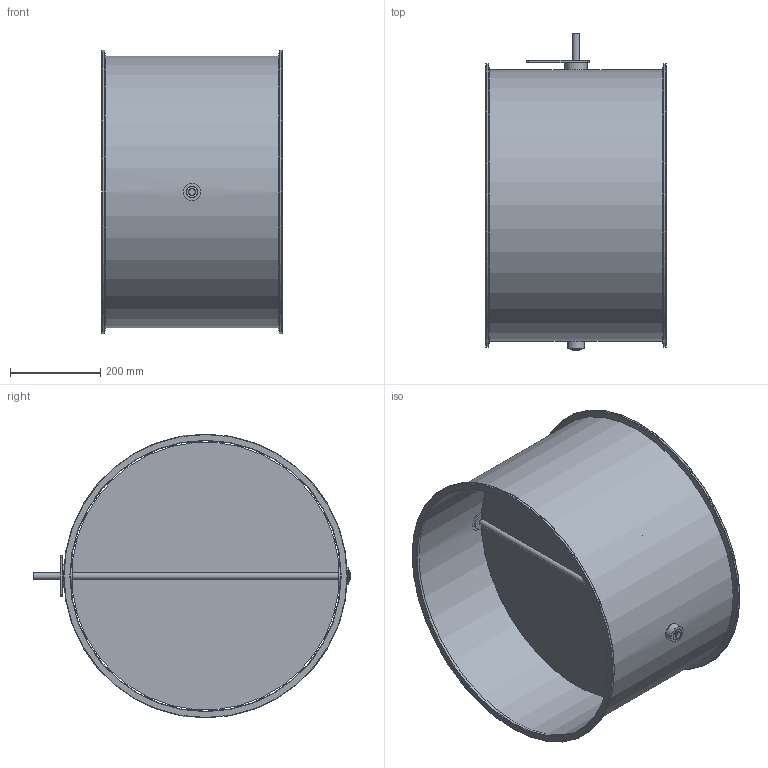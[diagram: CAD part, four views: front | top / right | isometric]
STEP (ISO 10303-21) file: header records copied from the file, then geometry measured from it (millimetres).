
FILE_DESCRIPTION(/* description */ (''),/* implementation_level */ '2;1');
FILE_NAME(/* name */ 'EA112-80B__600_L400_Belimo_Typ_NM.stp',/* time_stamp */ '2017-12-07T11:15:17+01:00',/* author */ (''),/* organization */ (''),/* preprocessor_version */ 'ST-DEVELOPER v11',/* originating_system */ 'SIEMENS UGS NX 6.0',/* authorisation */ '');
FILE_SCHEMA (('CONFIG_CONTROL_DESIGN'));
Length unit declared in the file: millimetre
Products named in the file (1): gars5544kxe2
Bounding box: 400 x 704 x 630 mm (x, y, z)
Volume: 1698392.5 mm3; surface area: 2248118.5 mm2
Topology: 8 solids, 8 shells, 63 faces, 135 edges, 90 vertices
Faces by surface type: cylinder 31, plane 24, torus 6, cone 2
Full cylindrical faces by diameter (mm): 6.1 x7, 15 x3, 25 x3, 25.85 x2, 26 x2, 38 x3, 49 x1, 600 x1, 602 x1, 630 x2
Entity records: 1670 total; most frequent: CARTESIAN_POINT 304, DIRECTION 280, ORIENTED_EDGE 184, EDGE_LOOP 128, AXIS2_PLACEMENT_3D 128, FACE_BOUND 114, EDGE_CURVE 92, VERTEX_POINT 80
